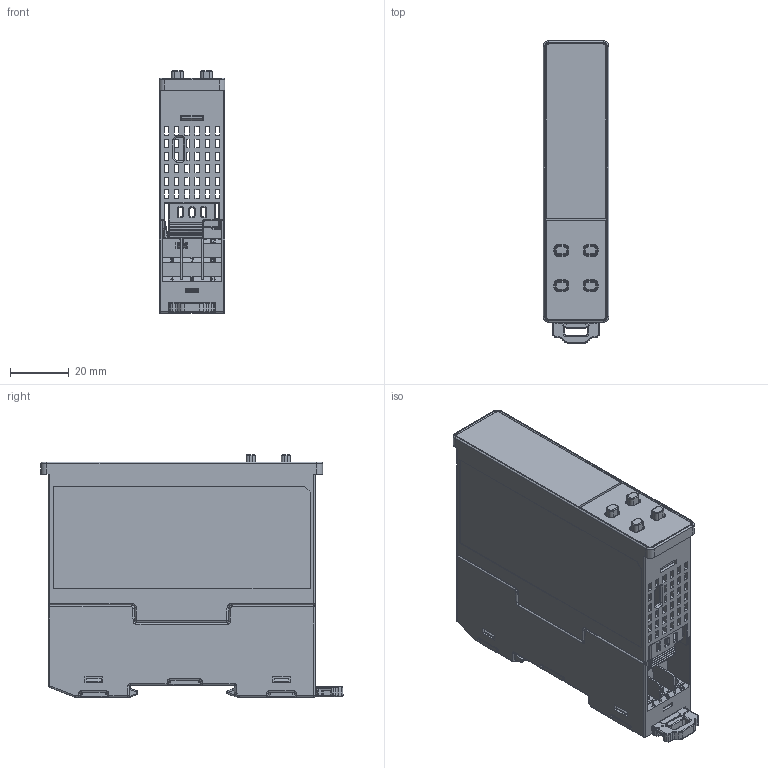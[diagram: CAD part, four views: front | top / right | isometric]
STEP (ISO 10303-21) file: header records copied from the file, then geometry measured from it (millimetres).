
FILE_DESCRIPTION((''),'2;1');
FILE_NAME('ME_R22_SET_ASM','2018-05-24T',('Harry'),(''),'CREO PARAMETRIC BY PTC INC, 2014350','CREO PARAMETRIC BY PTC INC, 2014350','');
FILE_SCHEMA(('CONFIG_CONTROL_DESIGN','GEOMETRIC_VALIDATION_PROPERTIES_MIM'));
Products named in the file (19): ME_R22_COVER_FRONT; ME_R22_DECO_FRONT; ME_R22_RUBBER-KEY; ME_R22_GLASS; ME_R22_RBKY; ME_R22_COVER_FRONT_SET_ASM; ME_R22_HOUSING; ME_R22_COVER_BACK; ME_R22_PCB_TERMINAL; CNTR_28P_2-54PI_P90-0144; ME_R22_CABLE_A; ME_R22_CABLE_B; ME_R22_CABLE_C; ME_R22_CABLE_D; ME_R22_PCB_TERMINAL_SET_ASM; ME_R22_COVER_BRACKET; ME_R22_LOCK; ME_R22_COVER_BACK_SET_ASM; ME_R22_SET_ASM
Assembly tree (22 placements, depth 4):
  ME_R22_SET_ASM
    ME_R22_COVER_FRONT_SET_ASM
      ME_R22_COVER_FRONT
      ME_R22_DECO_FRONT
      ME_R22_RUBBER-KEY
      ME_R22_GLASS
      ME_R22_RBKY  x4
    ME_R22_HOUSING
    ME_R22_COVER_BACK_SET_ASM
      ME_R22_COVER_BACK
      ME_R22_PCB_TERMINAL_SET_ASM
        ME_R22_PCB_TERMINAL
        CNTR_28P_2-54PI_P90-0144
        ME_R22_CABLE_A
        ME_R22_CABLE_B
        ME_R22_CABLE_C
        ME_R22_CABLE_D
      ME_R22_COVER_BRACKET
      ME_R22_LOCK  x2
Bounding box: 22.5 x 102.99 x 82.55 mm (x, y, z)
Volume: 41365.2 mm3; surface area: 79870.4 mm2
Topology: 46 solids, 46 shells, 5739 faces, 15286 edges, 9649 vertices
Faces by surface type: plane 3370, cylinder 1569, bspline 341, torus 189, cone 162, sphere 108
Entity records: 201956 total; most frequent: CARTESIAN_POINT 46465, ORIENTED_EDGE 28086, DIRECTION 25561, EDGE_CURVE 14043, VECTOR 10519, LINE 10519, VERTEX_POINT 8869, PRESENTATION_STYLE_ASSIGNMENT 7963
